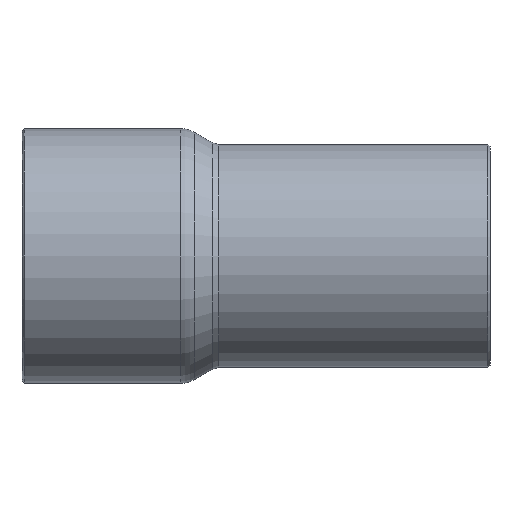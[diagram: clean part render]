
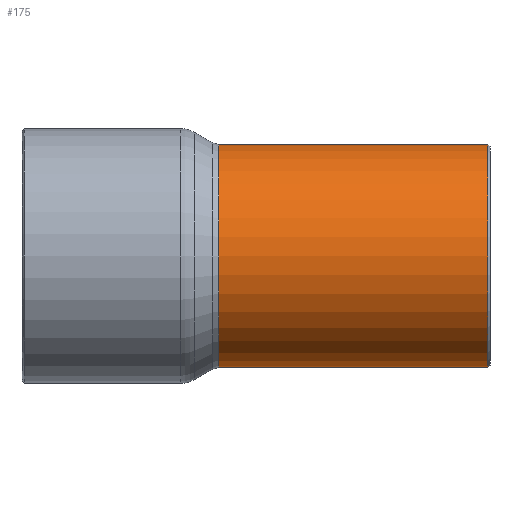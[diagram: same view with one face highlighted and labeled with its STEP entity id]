
A CAD part, front view. The second image highlights one B-rep face of the part: STEP entity #175.
In plain terms, the highlighted cylindrical face has radius 9.525 mm (diameter 19.05 mm), a full revolution.
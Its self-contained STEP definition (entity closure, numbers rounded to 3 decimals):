
#141=CARTESIAN_POINT('',(21.2,9.525,0.));
#142=VERTEX_POINT('',#141);
#143=CARTESIAN_POINT('',(21.2,0.0,0.0));
#144=DIRECTION('',(1.0,0.0,0.0));
#145=DIRECTION('',(0.0,-1.0,0.0));
#146=AXIS2_PLACEMENT_3D('',#143,#144,#145);
#147=CIRCLE('',#146,9.525);
#148=EDGE_CURVE('',#142,#142,#147,.T.);
#156=CARTESIAN_POINT('',(9.799,0.0,0.0));
#157=DIRECTION('',(1.0,0.0,0.0));
#158=DIRECTION('',(0.0,1.0,0.0));
#159=AXIS2_PLACEMENT_3D('',#156,#157,#158);
#160=CYLINDRICAL_SURFACE('',#159,9.525);
#161=CARTESIAN_POINT('',(-1.802,9.525,0.0));
#162=VERTEX_POINT('',#161);
#163=CARTESIAN_POINT('',(-1.802,0.0,0.0));
#164=DIRECTION('',(1.0,0.0,0.0));
#165=DIRECTION('',(0.0,1.0,0.0));
#166=AXIS2_PLACEMENT_3D('',#163,#164,#165);
#167=CIRCLE('',#166,9.525);
#168=EDGE_CURVE('',#162,#162,#167,.T.);
#169=ORIENTED_EDGE('',*,*,#168,.T.);
#170=EDGE_LOOP('',(#169));
#171=FACE_OUTER_BOUND('',#170,.T.);
#172=ORIENTED_EDGE('',*,*,#148,.F.);
#173=EDGE_LOOP('',(#172));
#174=FACE_BOUND('',#173,.T.);
#175=ADVANCED_FACE('',(#171,#174),#160,.T.);
